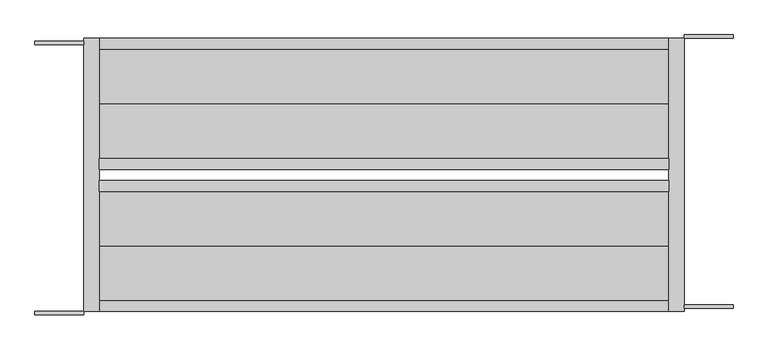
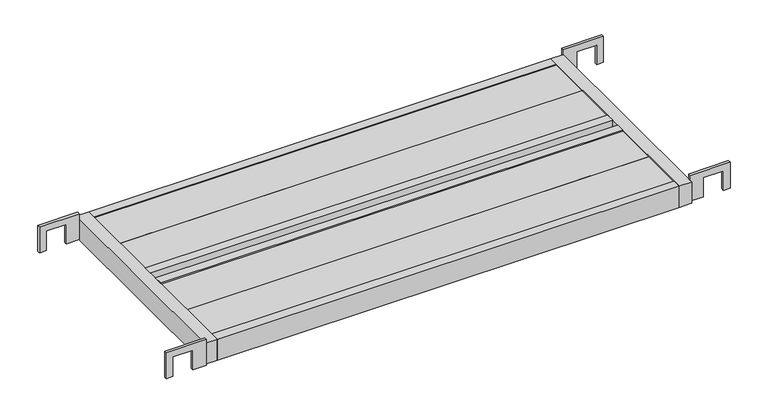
"""IFC4 building model written with IfcOpenShell, lengths in millimetres: proxy geometry, AKK布板HF-512_斜線なし_軽 : 鋼製布板 HF-512."""

import ifcopenshell
import ifcopenshell.guid

model = None  # the IFC model being written
_history = None  # IfcOwnerHistory: only IFC2X3 demands one
_inside = {}  # id of a spatial element -> (the spatial element, [elements in it])
_under = {}  # id of a project, library or spatial element -> (it, [spatial elements below it])
_declared = {}  # id of a project -> (the project, [libraries it declares])
_typed = {}  # id of a type object -> (the type object, [elements of that type])
_made_of = {}  # id of a material, layer set ... -> (it, [elements and type objects made of it])


def new_model(schema):
    """Start an empty IFC model of exactly this schema.

    Asked for "IFC4X3", IfcOpenShell would pick the latest addendum, in which some entities
    have other attributes; the version numbers below select the first issue.
    IFC2X3 requires an IfcOwnerHistory on every rooted entity: one is made here for all.
    """
    global model, _history
    if schema == "IFC4X3":
        model = ifcopenshell.file(schema_version=(4, 3, 0, 0))
    else:
        model = ifcopenshell.file(schema=schema)
    _inside.clear()
    _under.clear()
    _declared.clear()
    _typed.clear()
    _made_of.clear()
    _history = None
    if model.schema == "IFC2X3":
        org = make("IfcOrganization", Name="unknown")
        user = make(
            "IfcPersonAndOrganization",
            ThePerson=make("IfcPerson", FamilyName="unknown"),
            TheOrganization=org,
        )
        app = make(
            "IfcApplication",
            ApplicationDeveloper=org,
            Version="unknown",
            ApplicationFullName="unknown",
            ApplicationIdentifier="unknown",
        )
        _history = make(
            "IfcOwnerHistory",
            OwningUser=user,
            OwningApplication=app,
            ChangeAction="ADDED",
            CreationDate=0,
        )
    return model


def make(cls, **values):
    """One entity of the class cls with the attributes given. An attribute that is None is left unset."""
    return model.create_entity(
        cls, **{name: value for name, value in values.items() if value is not None}
    )


def rooted(cls, **values):
    """An entity with a GlobalId (a new one), such as an element, a storey or a relation."""
    return make(cls, GlobalId=ifcopenshell.guid.new(), OwnerHistory=_history, **values)


def si_unit(unit_type, name, prefix=None):
    """IfcSIUnit, for example si_unit("LENGTHUNIT", "METRE", prefix="MILLI")."""
    return make("IfcSIUnit", UnitType=unit_type, Prefix=prefix, Name=name)


def assignment(units):
    """IfcUnitAssignment: the units of a project."""
    return None if units is None else make("IfcUnitAssignment", Units=units)


def point(xyz):
    """IfcCartesianPoint."""
    return None if xyz is None else make("IfcCartesianPoint", Coordinates=xyz)


def direction(xyz):
    """IfcDirection."""
    return None if xyz is None else make("IfcDirection", DirectionRatios=xyz)


def frame(location, z_axis=None, x_axis=None):
    """IfcAxis2Placement3D, a coordinate frame: its origin and axes. An axis left out is left unset."""
    return make(
        "IfcAxis2Placement3D",
        Location=point(location),
        Axis=direction(z_axis),
        RefDirection=direction(x_axis),
    )


def origin():
    """The frame at (0, 0, 0) with its axes left unset."""
    return frame((0.0, 0.0, 0.0))


def place(relative_to, where):
    """IfcLocalPlacement: puts the frame where relative to a parent placement (None: the world)."""
    return make(
        "IfcLocalPlacement", PlacementRelTo=relative_to, RelativePlacement=where
    )


def context(
    kind, dimensions, precision=None, world=None, true_north=None, identifier=None
):
    """IfcGeometricRepresentationContext, for example the 3D "Model" context."""
    return make(
        "IfcGeometricRepresentationContext",
        ContextIdentifier=identifier,
        ContextType=kind,
        CoordinateSpaceDimension=dimensions,
        Precision=precision,
        WorldCoordinateSystem=world,
        TrueNorth=true_north,
    )


def project(units=None, contexts=None):
    """IfcProject with its units and contexts."""
    return rooted(
        "IfcProject",
        Name="project",
        RepresentationContexts=contexts,
        UnitsInContext=assignment(units),
    )


def spatial(cls, under=None, at=None, **own):
    """A site, building, storey or space (cls), placed at a placement, below another one or the project."""
    s = rooted(cls, ObjectPlacement=at, **own)
    if under is not None:
        _under.setdefault(under.id(), (under, []))[1].append(s)
    return s


def polyline(points):
    """IfcPolyline through the points."""
    return make("IfcPolyline", Points=[point(p) for p in points])


def outline(outer, holes=None, kind="AREA"):
    """IfcArbitraryClosedProfileDef: a profile drawn as a closed curve; with holes, ...WithVoids."""
    if holes is None:
        return make("IfcArbitraryClosedProfileDef", ProfileType=kind, OuterCurve=outer)
    return make(
        "IfcArbitraryProfileDefWithVoids",
        ProfileType=kind,
        OuterCurve=outer,
        InnerCurves=holes,
    )


def extrude(swept, where, along, depth):
    """IfcExtrudedAreaSolid: the profile swept, set in the frame where, extruded along a direction by depth."""
    return make(
        "IfcExtrudedAreaSolid",
        SweptArea=swept,
        Position=where,
        ExtrudedDirection=direction(along),
        Depth=depth,
    )


def shape(context_of_items, identifier, shape_type, items):
    """IfcShapeRepresentation: the items that make up one representation, for example the "Body"."""
    return make(
        "IfcShapeRepresentation",
        ContextOfItems=context_of_items,
        RepresentationIdentifier=identifier,
        RepresentationType=shape_type,
        Items=items,
    )


def source(mapping_origin, context_of_items, identifier, shape_type, items):
    """IfcRepresentationMap: a shape defined once, which mapped items show again and again."""
    return make(
        "IfcRepresentationMap",
        MappingOrigin=mapping_origin,
        MappedRepresentation=shape(context_of_items, identifier, shape_type, items),
    )


def transform(
    local_origin,
    x_axis=None,
    y_axis=None,
    z_axis=None,
    scale=None,
    scale2=None,
    scale3=None,
    uniform=True,
):
    """IfcCartesianTransformationOperator3D, or its non-uniform kind. x_axis, y_axis, z_axis: its Axis1, 2, 3."""
    if uniform:
        return make(
            "IfcCartesianTransformationOperator3D",
            Axis1=direction(x_axis),
            Axis2=direction(y_axis),
            LocalOrigin=point(local_origin),
            Scale=scale,
            Axis3=direction(z_axis),
        )
    return make(
        "IfcCartesianTransformationOperator3DnonUniform",
        Axis1=direction(x_axis),
        Axis2=direction(y_axis),
        LocalOrigin=point(local_origin),
        Scale=scale,
        Axis3=direction(z_axis),
        Scale2=scale2,
        Scale3=scale3,
    )


def mapped(mapping_source, mapping_target):
    """IfcMappedItem: shows the shape of a source again, moved by a transform."""
    return make(
        "IfcMappedItem", MappingSource=mapping_source, MappingTarget=mapping_target
    )


def made_of(thing, what):
    """Note that an element or type object is made of a material, layer set ...; save() writes the relation."""
    if what is not None:
        _made_of.setdefault(what.id(), (what, []))[1].append(thing)
    return thing


def element(
    cls,
    number,
    at=None,
    inside=None,
    cuts=None,
    type_object=None,
    material=None,
    context=None,
    identifier="Body",
    shape_type=None,
    held_by="IfcProductDefinitionShape",
    body=None,
    shapes=None,
    **own,
):
    """One element of the class cls, such as IfcWall. Its Tag is "e" and its number.

    at: its placement. inside: the storey or other place that contains it. cuts: it is an
    opening in that element (IfcRelVoidsElement). A single representation is given by context,
    identifier, shape_type and body (its items); several are given by shapes. held_by: the class
    of the entity that holds the representations. save() writes the other relations.
    """
    e = rooted(cls, Tag="e%d" % number, ObjectPlacement=at, **own)
    if body is not None:
        shapes = [shape(context, identifier, shape_type, body)]
    if shapes is not None:
        e.Representation = make(held_by, Representations=shapes)
    if inside is not None:
        _inside.setdefault(inside.id(), (inside, []))[1].append(e)
    if cuts is not None:
        rooted(
            "IfcRelVoidsElement", RelatingBuildingElement=cuts, RelatedOpeningElement=e
        )
    if type_object is not None:
        _typed.setdefault(type_object.id(), (type_object, []))[1].append(e)
    return made_of(e, material)


def aggregate(whole, parts):
    """IfcRelAggregates: a whole, such as a stair, and the parts it consists of."""
    return rooted("IfcRelAggregates", RelatingObject=whole, RelatedObjects=parts)


def save(model, path):
    """Write the relations noted so far, then the file.

    IfcRelAggregates (storeys below a building ...), IfcRelContainedInSpatialStructure (elements
    in a storey), IfcRelDefinesByType, IfcRelAssociatesMaterial and IfcRelDeclares: one each for
    every whole, place, type object, material and project.
    """
    for whole, parts in _under.values():
        aggregate(whole, parts)
    for where, things in _inside.values():
        rooted(
            "IfcRelContainedInSpatialStructure",
            RelatedElements=things,
            RelatingStructure=where,
        )
    for kind, things in _typed.values():
        rooted("IfcRelDefinesByType", RelatedObjects=things, RelatingType=kind)
    for what, things in _made_of.values():
        rooted("IfcRelAssociatesMaterial", RelatedObjects=things, RelatingMaterial=what)
    for by, libraries in _declared.values():
        rooted("IfcRelDeclares", RelatingContext=by, RelatedDefinitions=libraries)
    model.write(path)


def generic_models_8fd451b1(model_context):
    return source(origin(), model_context, "Body", "SweptSolid", [
        extrude(outline(polyline([(37.5, 1157.5), (-24.1, 1157.5), (-24.1, 1187.0), (22.0, 1187.0), (22.0, 1232.0), (-24.1, 1232.0), (-24.1, 1247.0), (37.5, 1247.0), (37.5, 1157.5)])), frame((0.0, 12.0, 0.0), z_axis=(0.0, 1.0, 0.0), x_axis=(0.0, 0.0, 1.0)), (0.0, 0.0, 1.0), 6.0),
        extrude(outline(polyline([(37.5, 1157.5), (-24.1, 1157.5), (-24.1, 1187.0), (22.0, 1187.0), (22.0, 1232.0), (-24.1, 1232.0), (-24.1, 1247.0), (37.5, 1247.0), (37.5, 1157.5)])), frame((0.0, 506.0, 0.0), z_axis=(0.0, 1.0, 0.0), x_axis=(0.0, 0.0, 1.0)), (0.0, 0.0, 1.0), 6.0),
        extrude(outline(polyline([(37.5, -28.0), (-24.1, -28.0), (-24.1, -13.0), (22.0, -13.0), (22.0, 32.0), (-24.1, 32.0), (-24.1, 61.5), (37.5, 61.5), (37.5, -28.0)])), frame((0.0, 0.0, 0.0), z_axis=(0.0, 1.0, 0.0), x_axis=(0.0, 0.0, 1.0)), (0.0, 0.0, 1.0), 6.0),
        extrude(outline(polyline([(37.5, -28.0), (-24.1, -28.0), (-24.1, -13.0), (22.0, -13.0), (22.0, 32.0), (-24.1, 32.0), (-24.1, 61.5), (37.5, 61.5), (37.5, -28.0)])), frame((0.0, 494.0, 0.0), z_axis=(0.0, 1.0, 0.0), x_axis=(0.0, 0.0, 1.0)), (0.0, 0.0, 1.0), 6.0),
        extrude(outline(polyline([(1129.5, 486.0), (1129.5, 386.0), (89.5, 386.0), (89.5, 486.0), (1129.5, 486.0)])), frame((0.0, 0.0, 17.5), z_axis=(0.0, 0.0, 1.0), x_axis=(1.0, 0.0, 0.0)), (0.0, 0.0, 1.0), 5.0),
        extrude(outline(polyline([(1129.5, 386.0), (1129.5, 286.0), (89.5, 286.0), (89.5, 386.0), (1129.5, 386.0)])), frame((0.0, 0.0, 17.5), z_axis=(0.0, 0.0, 1.0), x_axis=(1.0, 0.0, 0.0)), (0.0, 0.0, 1.0), 5.0),
        extrude(outline(polyline([(1129.5, 226.0), (1129.5, 126.0), (89.5, 126.0), (89.5, 226.0), (1129.5, 226.0)])), frame((0.0, 0.0, 17.5), z_axis=(0.0, 0.0, 1.0), x_axis=(1.0, 0.0, 0.0)), (0.0, 0.0, 1.0), 5.0),
        extrude(outline(polyline([(1129.5, 126.0), (1129.5, 26.0), (89.5, 26.0), (89.5, 126.0), (1129.5, 126.0)])), frame((0.0, 0.0, 17.5), z_axis=(0.0, 0.0, 1.0), x_axis=(1.0, 0.0, 0.0)), (0.0, 0.0, 1.0), 5.0),
        extrude(outline(polyline([(1129.5, 286.0), (1129.5, 266.0), (89.5, 266.0), (89.5, 286.0), (1129.5, 286.0)])), frame((0.0, 0.0, -25.0), z_axis=(0.0, 0.0, 1.0), x_axis=(1.0, 0.0, 0.0)), (0.0, 0.0, 1.0), 50.0),
        extrude(outline(polyline([(1129.5, 246.0), (1129.5, 226.0), (89.5, 226.0), (89.5, 246.0), (1129.5, 246.0)])), frame((0.0, 0.0, -25.0), z_axis=(0.0, 0.0, 1.0), x_axis=(1.0, 0.0, 0.0)), (0.0, 0.0, 1.0), 50.0),
        extrude(outline(polyline([(1129.5, 6.0), (1129.5, 506.0), (1157.5, 506.0), (1157.5, 6.0), (1129.5, 6.0)])), frame((0.0, 0.0, -25.0), z_axis=(0.0, 0.0, 1.0), x_axis=(1.0, 0.0, 0.0)), (0.0, 0.0, 1.0), 50.0),
        extrude(outline(polyline([(61.5, 6.0), (61.5, 506.0), (89.5, 506.0), (89.5, 6.0), (61.5, 6.0)])), frame((0.0, 0.0, -25.0), z_axis=(0.0, 0.0, 1.0), x_axis=(1.0, 0.0, 0.0)), (0.0, 0.0, 1.0), 50.0),
        extrude(outline(polyline([(1129.5, 506.0), (1129.5, 486.0), (89.5, 486.0), (89.5, 506.0), (1129.5, 506.0)])), frame((0.0, 0.0, -25.0), z_axis=(0.0, 0.0, 1.0), x_axis=(1.0, 0.0, 0.0)), (0.0, 0.0, 1.0), 50.0),
        extrude(outline(polyline([(1129.5, 26.0), (1129.5, 6.0), (89.5, 6.0), (89.5, 26.0), (1129.5, 26.0)])), frame((0.0, 0.0, -25.0), z_axis=(0.0, 0.0, 1.0), x_axis=(1.0, 0.0, 0.0)), (0.0, 0.0, 1.0), 50.0),
    ])


if __name__ == "__main__":
    model = new_model("IFC4")
    model_context = context("Model", 3, world=origin())
    ifc_project = project(units=[si_unit("LENGTHUNIT", "METRE", prefix="MILLI")], contexts=[model_context])
    site = spatial("IfcSite", under=ifc_project)
    building = spatial("IfcBuilding", under=site)
    placement = place(None, origin())
    generic_models_shape = generic_models_8fd451b1(model_context)
    element("IfcBuildingElementProxy", 1, Name="AKK布板HF-512_斜線なし_軽 : 鋼製布板 HF-512", ObjectType="AKK布板HF-512_斜線なし_軽 : 鋼製布板 HF-512", at=placement, inside=building, context=model_context, shape_type="MappedRepresentation", body=[
        mapped(generic_models_shape, transform((0.0, 0.0, 0.0), x_axis=(1.0, 0.0, 0.0), y_axis=(0.0, 1.0, 0.0), z_axis=(0.0, 0.0, 1.0))),
    ])
    save(model, "model.ifc")
